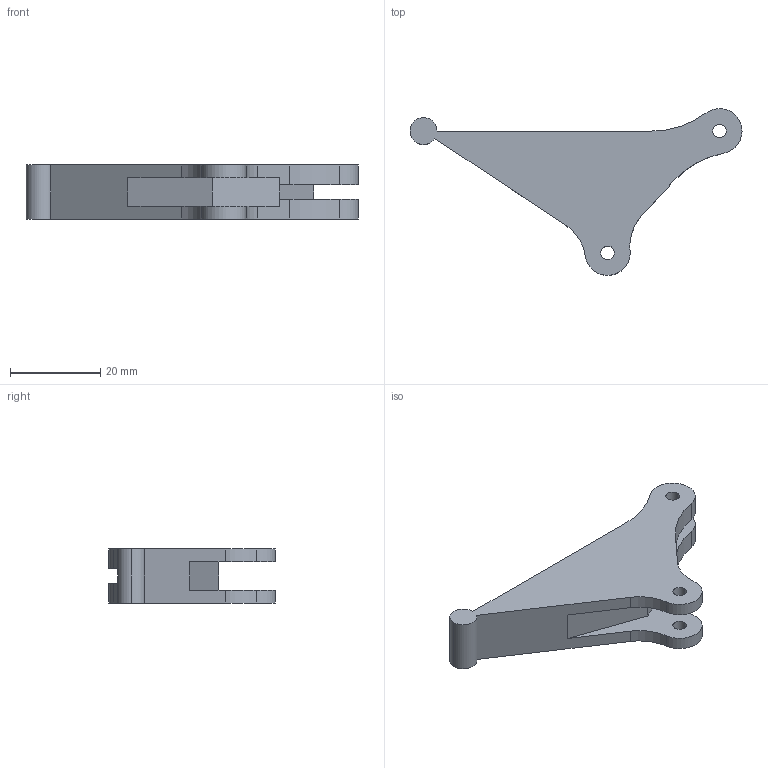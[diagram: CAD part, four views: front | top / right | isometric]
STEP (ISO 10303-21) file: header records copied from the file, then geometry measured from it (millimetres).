
FILE_DESCRIPTION (( 'STEP AP203' ), '1' );
FILE_NAME ('piece triengle bas-pied imp.STEP', '2023-05-23T11:15:23', ( '' ), ( '' ), 'SwSTEP 2.0', 'SolidWorks 2022', '' );
FILE_SCHEMA (( 'CONFIG_CONTROL_DESIGN' ));
Length unit declared in the file: millimetre
Products named in the file (1): piece triengle bas-pied imp
Bounding box: 73.7 x 37.02 x 12 mm (x, y, z)
Volume: 11038.8 mm3; surface area: 4917.9 mm2
Topology: 1 solids, 1 shells, 38 faces, 106 edges, 70 vertices
Faces by surface type: cylinder 24, plane 14
Entity records: 1335 total; most frequent: DIRECTION 232, CARTESIAN_POINT 215, ORIENTED_EDGE 212, EDGE_CURVE 106, AXIS2_PLACEMENT_3D 87, VERTEX_POINT 70, LINE 58, VECTOR 58
